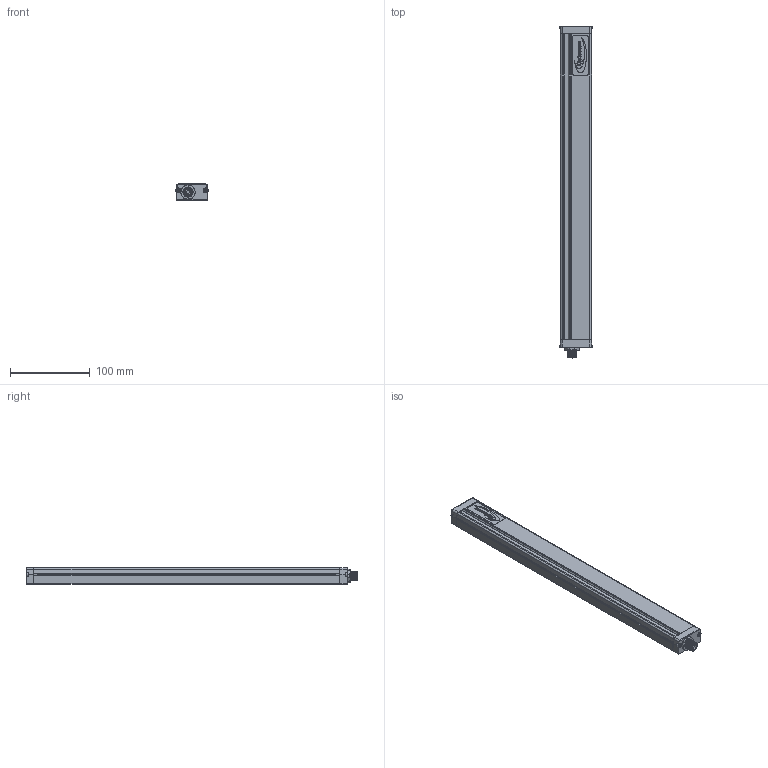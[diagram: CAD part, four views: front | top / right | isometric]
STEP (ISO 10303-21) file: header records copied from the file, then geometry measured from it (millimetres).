
FILE_DESCRIPTION(/* description */ (''),/* implementation_level */ '2;1');
FILE_NAME(/* name */ 'C:\Users\andre\SynologyDrive\Optoscan\Libreria Componenti\00 - Barriere\Polaris sorgente\Polaris_380_TX.stp',/* time_stamp */ '2021-06-04T10:54:37+02:00',/* author */ ('andre'),/* organization */ (''),/* preprocessor_version */ 'ST-DEVELOPER v18',/* originating_system */ 'Autodesk Inventor 2020',/* authorisation */ '');
FILE_SCHEMA (('AUTOMOTIVE_DESIGN { 1 0 10303 214 3 1 1 }'));
Length unit declared in the file: millimetre
Products named in the file (1): Polaris_380_TX
Bounding box: 40.5 x 416.8 x 20.75 mm (x, y, z)
Volume: 85987.1 mm3; surface area: 109400.4 mm2
Topology: 1 solids, 1 shells, 743 faces, 2072 edges, 1332 vertices
Faces by surface type: plane 332, cylinder 208, bspline 115, torus 74, cone 8, sphere 6
Full cylindrical faces by diameter (mm): 1 x8, 2.459 x4, 2.5 x4, 3 x4, 3.5 x4, 5.5 x4, 8 x1, 10.5 x2, 11.75 x9, 12 x1, 12.3 x3, 14.5 x1, 16.7 x1, 17.5 x1
Entity records: 30714 total; most frequent: CARTESIAN_POINT 11308, ORIENTED_EDGE 4130, DIRECTION 3590, EDGE_CURVE 2065, VERTEX_POINT 1333, AXIS2_PLACEMENT_3D 1263, LINE 1064, VECTOR 1064
